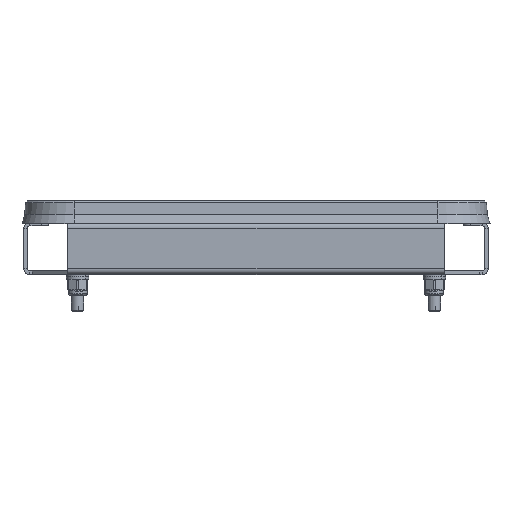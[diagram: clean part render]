
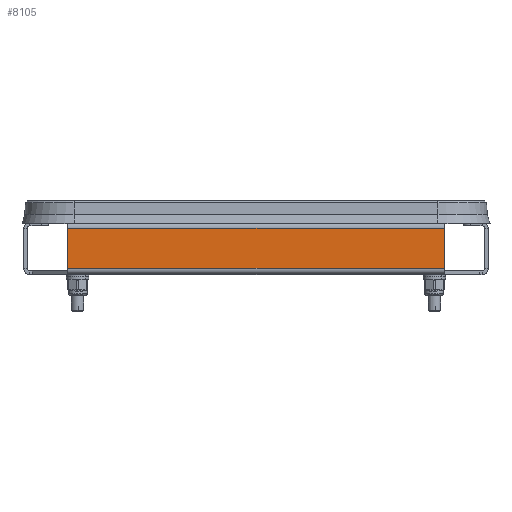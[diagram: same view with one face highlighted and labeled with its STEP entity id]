
A CAD part, left-side view. The second image highlights one B-rep face of the part: STEP entity #8105.
In plain terms, the highlighted planar face has unit normal (-1, 0, 0).
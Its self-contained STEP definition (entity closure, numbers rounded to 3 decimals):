
#1179 = DIRECTION ( 'NONE',  ( 0., -1., 0. ) ) ;
#1240 = VERTEX_POINT ( 'NONE', #4446 ) ;
#2070 = LINE ( 'NONE', #2209, #6567 ) ;
#2181 = VERTEX_POINT ( 'NONE', #7752 ) ;
#2194 = ORIENTED_EDGE ( 'NONE', *, *, #12876, .F. ) ;
#2209 = CARTESIAN_POINT ( 'NONE',  ( -142.5, 0., 1. ) ) ;
#2639 = ORIENTED_EDGE ( 'NONE', *, *, #14212, .F. ) ;
#4052 = CARTESIAN_POINT ( 'NONE',  ( -142.5, 75., 1. ) ) ;
#4446 = CARTESIAN_POINT ( 'NONE',  ( -142.5, -75., 1. ) ) ;
#5140 = VECTOR ( 'NONE', #11924, 1000. ) ;
#5182 = EDGE_CURVE ( 'NONE', #11803, #1240, #2070, .T. ) ;
#5295 = LINE ( 'NONE', #12052, #14325 ) ;
#5770 = VERTEX_POINT ( 'NONE', #14312 ) ;
#6363 = CARTESIAN_POINT ( 'NONE',  ( -142.5, 0., 0. ) ) ;
#6364 = LINE ( 'NONE', #10633, #10862 ) ;
#6567 = VECTOR ( 'NONE', #1179, 1000. ) ;
#7094 = ORIENTED_EDGE ( 'NONE', *, *, #5182, .T. ) ;
#7241 = FACE_OUTER_BOUND ( 'NONE', #13448, .T. ) ;
#7752 = CARTESIAN_POINT ( 'NONE',  ( -142.5, -75., 17. ) ) ;
#8105 = ADVANCED_FACE ( 'NONE', ( #7241 ), #14174, .T. ) ;
#8418 = DIRECTION ( 'NONE',  ( 0., -1., 0. ) ) ;
#8529 = LINE ( 'NONE', #14420, #5140 ) ;
#8722 = AXIS2_PLACEMENT_3D ( 'NONE', #6363, #11809, #9521 ) ;
#8738 = DIRECTION ( 'NONE',  ( 0., 0., -1. ) ) ;
#9521 = DIRECTION ( 'NONE',  ( 0., 0., 1. ) ) ;
#10633 = CARTESIAN_POINT ( 'NONE',  ( -142.5, -75., 17. ) ) ;
#10862 = VECTOR ( 'NONE', #8418, 1000. ) ;
#11096 = ORIENTED_EDGE ( 'NONE', *, *, #12358, .F. ) ;
#11803 = VERTEX_POINT ( 'NONE', #4052 ) ;
#11809 = DIRECTION ( 'NONE',  ( -1., 0., 0. ) ) ;
#11924 = DIRECTION ( 'NONE',  ( 0., 0., 1. ) ) ;
#12052 = CARTESIAN_POINT ( 'NONE',  ( -142.5, -75., 0. ) ) ;
#12358 = EDGE_CURVE ( 'NONE', #11803, #5770, #8529, .T. ) ;
#12876 = EDGE_CURVE ( 'NONE', #2181, #1240, #5295, .T. ) ;
#13448 = EDGE_LOOP ( 'NONE', ( #11096, #7094, #2194, #2639 ) ) ;
#14174 = PLANE ( 'NONE',  #8722 ) ;
#14212 = EDGE_CURVE ( 'NONE', #5770, #2181, #6364, .T. ) ;
#14312 = CARTESIAN_POINT ( 'NONE',  ( -142.5, 75., 17. ) ) ;
#14325 = VECTOR ( 'NONE', #8738, 1000. ) ;
#14420 = CARTESIAN_POINT ( 'NONE',  ( -142.5, 75., 17. ) ) ;
